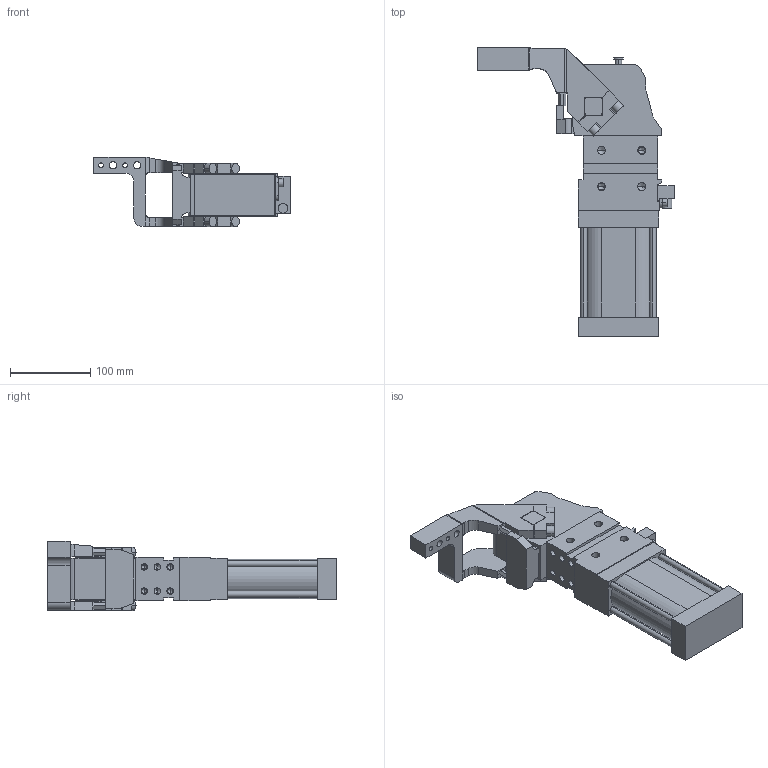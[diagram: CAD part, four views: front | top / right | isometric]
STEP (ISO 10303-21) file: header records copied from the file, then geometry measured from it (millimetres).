
FILE_DESCRIPTION (( 'STEP AP214' ), '1' );
FILE_NAME ('cpl63tv3si1g_135.STEP', '2023-01-26T10:49:50', ( '' ), ( '' ), 'SwSTEP 2.0', 'SolidWorks 2022', '' );
FILE_SCHEMA (( 'AUTOMOTIVE_DESIGN' ));
Length unit declared in the file: millimetre
Products named in the file (4): blocchetto_VEP_0; cpl63tv3si1g_135; leva_v3s_cpl63t; meccanica_cpl_63_tassello_esterno
Assembly tree (3 placements, depth 2):
  cpl63tv3si1g_135
    meccanica_cpl_63_tassello_esterno
    blocchetto_VEP_0
    leva_v3s_cpl63t
Bounding box: 244.5 x 359.5 x 86.5 mm (x, y, z)
Volume: 1839114.2 mm3; surface area: 200643.9 mm2
Topology: 3 solids, 3 shells, 431 faces, 1136 edges, 705 vertices
Faces by surface type: plane 231, cylinder 150, cone 50
Entity records: 14551 total; most frequent: CARTESIAN_POINT 2329, DIRECTION 2279, ORIENTED_EDGE 2180, EDGE_CURVE 1090, AXIS2_PLACEMENT_3D 765, LINE 749, VECTOR 749, VERTEX_POINT 705
